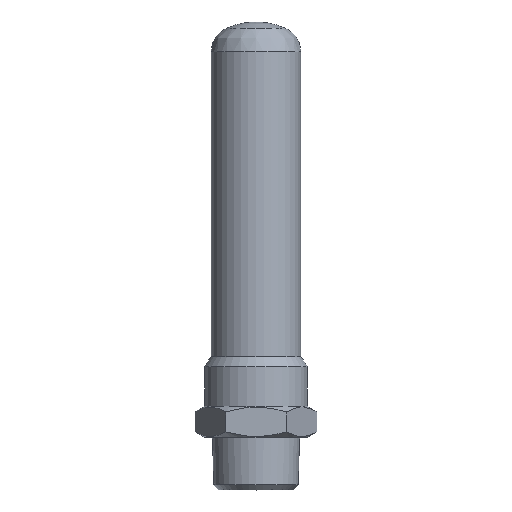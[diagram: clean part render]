
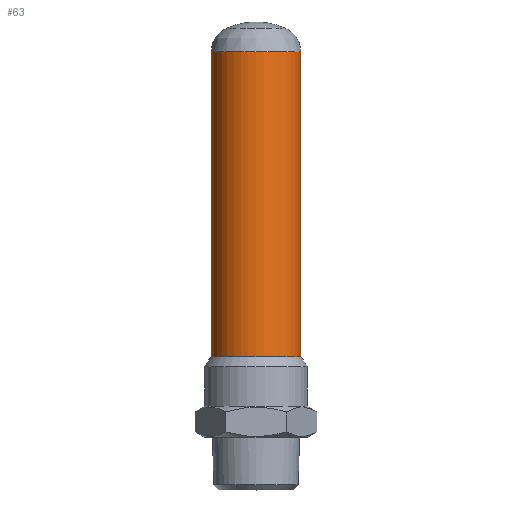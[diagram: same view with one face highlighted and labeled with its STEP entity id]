
A CAD part, front view. The second image highlights one B-rep face of the part: STEP entity #63.
In plain terms, the highlighted cylindrical face has radius 17.375 mm (diameter 34.75 mm), a partial arc.
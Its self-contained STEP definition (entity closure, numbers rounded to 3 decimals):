
#63=ADVANCED_FACE('',(#301),#300,.T.);
#300=CYLINDRICAL_SURFACE('',#562,17.375);
#301=FACE_OUTER_BOUND('',#563,.T.);
#559=CARTESIAN_POINT('',(0.,0.,0.));
#560=DIRECTION('',(0.,0.,1.));
#561=DIRECTION('',(1.,0.,0.));
#562=AXIS2_PLACEMENT_3D('',#559,#560,#561);
#563=EDGE_LOOP('',(#706,#707,#708,#709));
#706=ORIENTED_EDGE('',*,*,#745,.F.);
#707=ORIENTED_EDGE('',*,*,#774,.T.);
#708=ORIENTED_EDGE('',*,*,#757,.T.);
#709=ORIENTED_EDGE('',*,*,#775,.F.);
#745=EDGE_CURVE('',#917,#916,#924,.T.);
#757=EDGE_CURVE('',#985,#992,#1005,.T.);
#774=EDGE_CURVE('',#917,#985,#1113,.T.);
#775=EDGE_CURVE('',#916,#992,#1119,.T.);
#916=VERTEX_POINT('',#1372);
#917=VERTEX_POINT('',#1373);
#924=CIRCLE('',#1381,17.375);
#985=VERTEX_POINT('',#1419);
#992=VERTEX_POINT('',#1423);
#1005=CIRCLE('',#1434,17.375);
#1113=(BOUNDED_CURVE() B_SPLINE_CURVE(1,(#1485,#1486),.UNSPECIFIED.,.F.,.F.) B_SPLINE_CURVE_WITH_KNOTS((2,2),(0.072,0.928),.UNSPECIFIED.) CURVE() GEOMETRIC_REPRESENTATION_ITEM() RATIONAL_B_SPLINE_CURVE((1.,1.)) REPRESENTATION_ITEM('') );
#1119=(BOUNDED_CURVE() B_SPLINE_CURVE(1,(#1487,#1488),.UNSPECIFIED.,.F.,.F.) B_SPLINE_CURVE_WITH_KNOTS((2,2),(0.072,0.928),.UNSPECIFIED.) CURVE() GEOMETRIC_REPRESENTATION_ITEM() RATIONAL_B_SPLINE_CURVE((0.75,0.75)) REPRESENTATION_ITEM('') );
#1372=CARTESIAN_POINT('',(-17.375,0.,51.862));
#1373=CARTESIAN_POINT('',(17.375,0.,51.862));
#1378=CARTESIAN_POINT('',(0.,0.,51.862));
#1379=DIRECTION('',(0.,0.,-1.));
#1380=DIRECTION('',(-1.,0.,0.));
#1381=AXIS2_PLACEMENT_3D('',#1378,#1379,#1380);
#1419=CARTESIAN_POINT('',(17.375,0.,170.347));
#1423=CARTESIAN_POINT('',(-17.375,0.,170.347));
#1431=CARTESIAN_POINT('',(0.,0.,170.347));
#1432=DIRECTION('',(0.,0.,-1.));
#1433=DIRECTION('',(-1.,0.,0.));
#1434=AXIS2_PLACEMENT_3D('',#1431,#1432,#1433);
#1485=CARTESIAN_POINT('',(17.375,0.,51.862));
#1486=CARTESIAN_POINT('',(17.375,0.,170.347));
#1487=CARTESIAN_POINT('',(-17.375,0.,51.862));
#1488=CARTESIAN_POINT('',(-17.375,0.,170.347));
